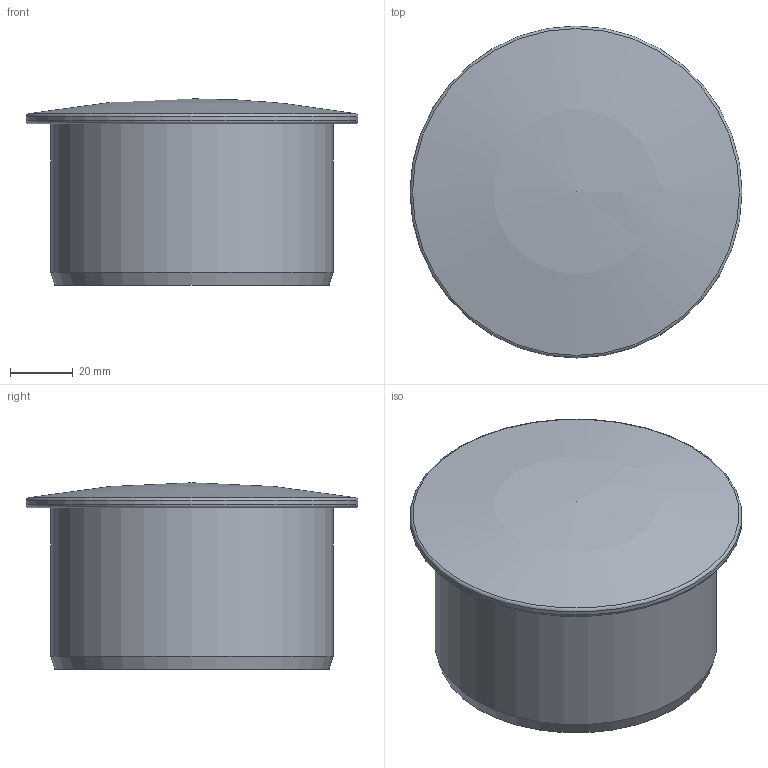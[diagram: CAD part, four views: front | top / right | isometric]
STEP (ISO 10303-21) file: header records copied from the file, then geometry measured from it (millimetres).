
FILE_DESCRIPTION(/* description */ (''),/* implementation_level */ '2;1');
FILE_NAME(/* name */ 'H:\Geberit-Teile\Export\Muffenstopfen ART\stp\390428.stp',/* time_stamp */ '2014-04-16T16:40:31+02:00',/* author */ ('seihe2'),/* organization */ (''),/* preprocessor_version */ 'ST-DEVELOPER v15.2',/* originating_system */ 'Autodesk Inventor 2014',/* authorisation */ '');
FILE_SCHEMA (('AUTOMOTIVE_DESIGN { 1 0 10303 214 3 1 1 }'));
Length unit declared in the file: millimetre
Products named in the file (1): 390428
Bounding box: 106 x 106 x 59.5 mm (x, y, z)
Volume: 73311.9 mm3; surface area: 46897.5 mm2
Topology: 1 solids, 1 shells, 10 faces, 21 edges, 13 vertices
Faces by surface type: cylinder 3, sphere 2, torus 2, plane 2, cone 1
Full cylindrical faces by diameter (mm): 84 x1, 90.2 x1, 106 x1
Entity records: 225 total; most frequent: DIRECTION 40, CARTESIAN_POINT 29, AXIS2_PLACEMENT_3D 20, EDGE_LOOP 18, ORIENTED_EDGE 18, STYLED_ITEM 11, FACE_OUTER_BOUND 10, ADVANCED_FACE 10
